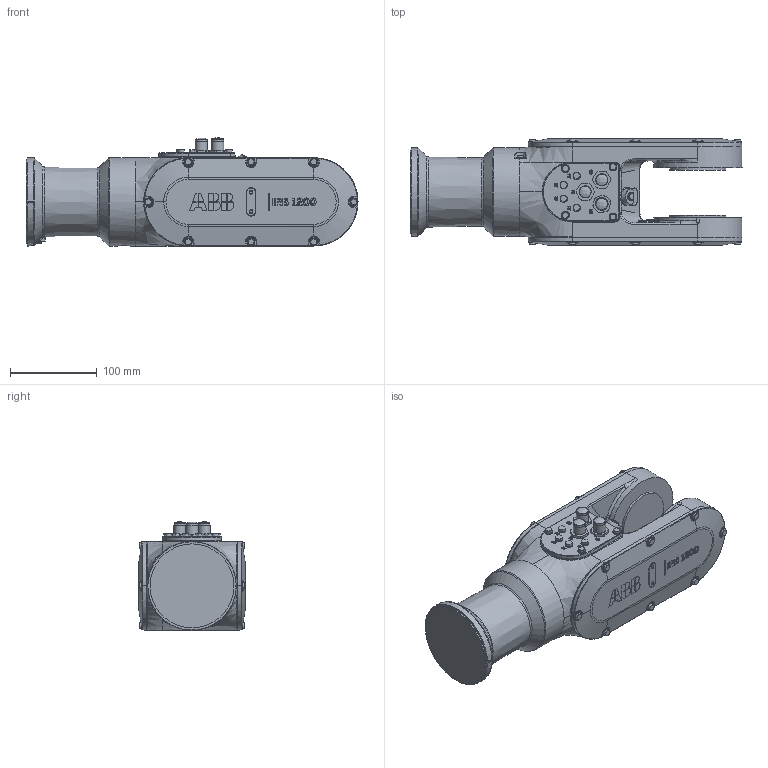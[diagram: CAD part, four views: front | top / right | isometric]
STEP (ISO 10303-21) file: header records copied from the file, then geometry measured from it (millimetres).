
FILE_DESCRIPTION (( 'STEP AP203' ), '1' );
FILE_NAME ('IRB1200GEN2_5kg-910_STD_OC_00_Link04L_CAD.STEP', '2025-06-16T02:33:03', ( '' ), ( '' ), 'SwSTEP 2.0', 'SolidWorks 2022', '' );
FILE_SCHEMA (( 'CONFIG_CONTROL_DESIGN' ));
Length unit declared in the file: millimetre
Products named in the file (1): IRB1200GEN2_5kg-910_STD_OC_00_Link04L_CAD
Bounding box: 383.5 x 124 x 124.85 mm (x, y, z)
Volume: 3080919 mm3; surface area: 180395 mm2
Topology: 1 solids, 1 shells, 1431 faces, 3549 edges, 2246 vertices
Faces by surface type: plane 591, bspline 519, cylinder 194, torus 71, cone 56
Full cylindrical faces by diameter (mm): 3.3 x4, 7 x22, 9 x22, 9.9 x4, 13 x1, 13.5 x3, 14 x3, 65 x2, 97 x1, 101.999 x1, 102 x1
Entity records: 78980 total; most frequent: CARTESIAN_POINT 49509, ORIENTED_EDGE 6782, DIRECTION 4699, EDGE_CURVE 3391, VERTEX_POINT 2185, EDGE_LOOP 1654, AXIS2_PLACEMENT_3D 1578, LINE 1543
